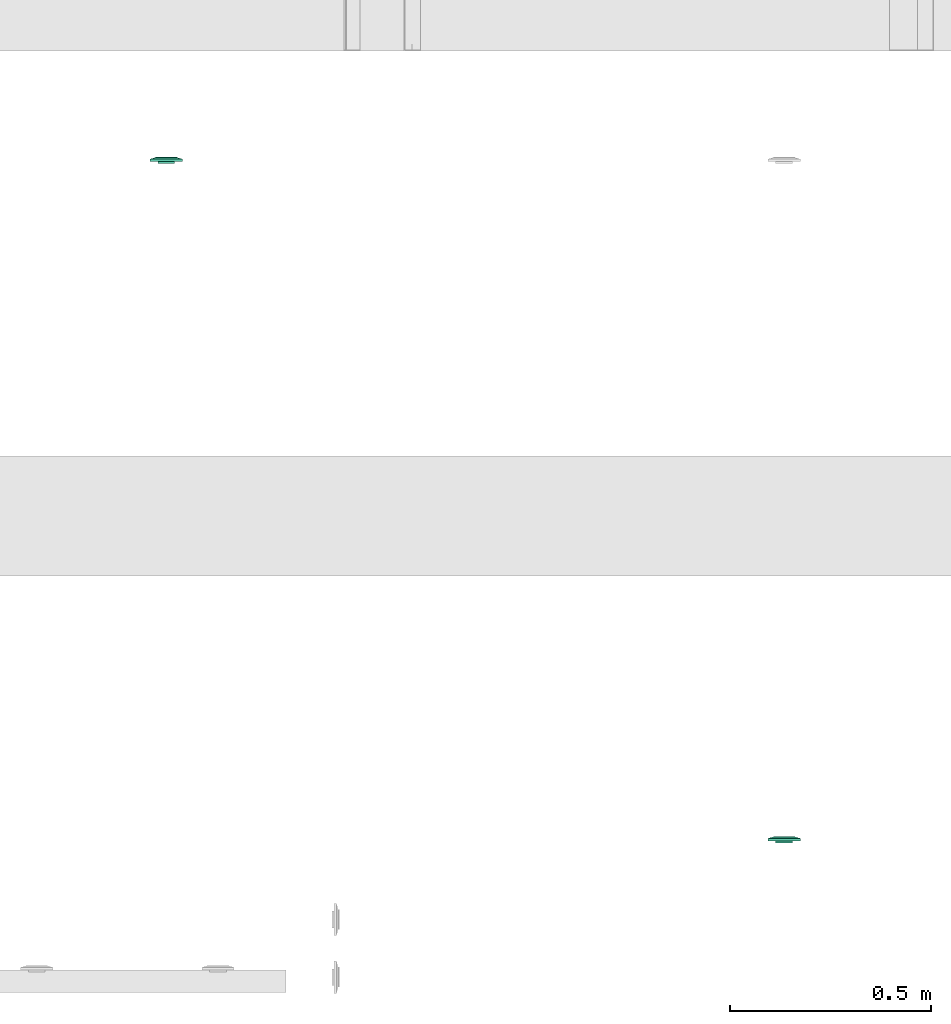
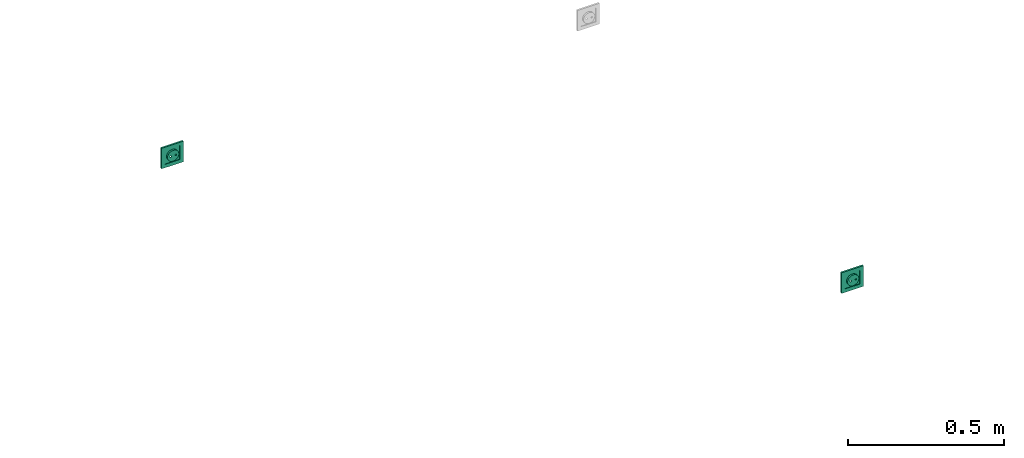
# One storey, part 33 of 166: 2 flow terminals.
"""IFC2X3 building model written with IfcOpenShell, lengths in metres."""

from ifc_helpers import new_model, entity, si_unit, converted_unit, derived_unit, direction, frame, origin, place, context, subcontext, project, spatial, face_set, surface_model, source, transform, mapped, type_object, type_shapes, element, save


model = new_model("IFC2X3")

# Units and contexts
model_context = context("Model", 3, precision=1e-05, world=origin(), true_north=direction((6.12303176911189e-17, 1.0)))
body_context = subcontext(model_context, "Body", "Model", "MODEL_VIEW")
ifc_project = project(units=[si_unit("LENGTHUNIT", "METRE"), si_unit("AREAUNIT", "SQUARE_METRE"), si_unit("VOLUMEUNIT", "CUBIC_METRE"), converted_unit("PLANEANGLEUNIT", "DEGREE", entity("IfcRatioMeasure", 0.0174532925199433), si_unit("PLANEANGLEUNIT", "RADIAN"), dimensions=[0, 0, 0, 0, 0, 0, 0]), si_unit("MASSUNIT", "GRAM", prefix="KILO"), derived_unit("MASSDENSITYUNIT", [(si_unit("MASSUNIT", "GRAM", prefix="KILO"), 1), (si_unit("LENGTHUNIT", "METRE"), -3)]), si_unit("TIMEUNIT", "SECOND"), si_unit("FREQUENCYUNIT", "HERTZ"), si_unit("THERMODYNAMICTEMPERATUREUNIT", "DEGREE_CELSIUS"), derived_unit("THERMALTRANSMITTANCEUNIT", [(si_unit("MASSUNIT", "GRAM", prefix="KILO"), 1), (si_unit("THERMODYNAMICTEMPERATUREUNIT", "KELVIN"), -1), (si_unit("TIMEUNIT", "SECOND"), -3)]), derived_unit("VOLUMETRICFLOWRATEUNIT", [(si_unit("LENGTHUNIT", "METRE"), 3), (si_unit("TIMEUNIT", "SECOND"), -1)]), si_unit("ELECTRICCURRENTUNIT", "AMPERE"), si_unit("ELECTRICVOLTAGEUNIT", "VOLT"), si_unit("POWERUNIT", "WATT"), si_unit("FORCEUNIT", "NEWTON"), si_unit("ILLUMINANCEUNIT", "LUX"), si_unit("LUMINOUSFLUXUNIT", "LUMEN"), si_unit("LUMINOUSINTENSITYUNIT", "CANDELA"), derived_unit("USERDEFINED", [(si_unit("MASSUNIT", "GRAM", prefix="KILO"), -1), (si_unit("LENGTHUNIT", "METRE"), -2), (si_unit("TIMEUNIT", "SECOND"), 3), (si_unit("LUMINOUSFLUXUNIT", "LUMEN"), 1)]), derived_unit("LINEARVELOCITYUNIT", [(si_unit("LENGTHUNIT", "METRE"), 1), (si_unit("TIMEUNIT", "SECOND"), -1)]), si_unit("PRESSUREUNIT", "PASCAL"), derived_unit("USERDEFINED", [(si_unit("LENGTHUNIT", "METRE"), -2), (si_unit("MASSUNIT", "GRAM", prefix="KILO"), 1), (si_unit("TIMEUNIT", "SECOND"), -2)])], contexts=[model_context])

# Site, building, storey
site_placement = place(None, origin())
site = spatial("IfcSite", under=ifc_project, at=site_placement, Name="Default", CompositionType="ELEMENT")
building_placement = place(site_placement, origin())
building = spatial("IfcBuilding", under=site, at=building_placement, CompositionType="ELEMENT")
storey_placement = place(building_placement, frame((0.0, 0.0, 4.27)))
storey = spatial("IfcBuildingStorey", under=building, at=storey_placement, Name="01", CompositionType="ELEMENT", Elevation=4.27)

# Flow terminals
light_fixture_type = type_object("IfcLightFixtureType", Name="Attente", PredefinedType="NOTDEFINED")
shared_shape = source(origin(), body_context, "Body", "SurfaceModel", [
    surface_model("IfcFaceBasedSurfaceModel", [(0.00225000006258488, 0.00949633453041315, 0.0127499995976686), (0.0, 0.00949633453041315, 0.0104999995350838), (0.0, 0.0101656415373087, 0.0115376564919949), (0.0, 0.0101656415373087, 0.0139623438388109), (0.0, 0.00984531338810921, 0.0144589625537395), (0.0, 0.0102778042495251, 0.0121178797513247), (0.0, 0.0102778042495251, 0.0133821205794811), (0.0, 0.010399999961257, 0.0127499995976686), (0.0, 0.00949633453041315, 0.0149999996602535), (-0.00225000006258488, 0.00949633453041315, 0.0127499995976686), (0.0, 0.00984531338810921, 0.0110410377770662), (0.0, 0.00949633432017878, 0.0127499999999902), (-0.0022499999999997, 0.0094963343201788, 0.0127499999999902), (-0.00217333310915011, 0.00949633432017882, 0.0121676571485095), (-0.0019485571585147, 0.00949633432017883, 0.0116249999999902), (-0.00159099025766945, 0.00949633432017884, 0.0111590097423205), (-0.00112499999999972, 0.00949633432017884, 0.0108014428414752), (-0.000582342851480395, 0.00949633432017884, 0.0105766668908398), (0.0, 0.00949633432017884, 0.0104999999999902), (0.000582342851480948, 0.00949633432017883, 0.0105766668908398), (0.00112500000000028, 0.00949633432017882, 0.0108014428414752), (0.00159099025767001, 0.00949633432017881, 0.0111590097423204), (0.00194855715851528, 0.00949633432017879, 0.0116249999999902), (0.0021733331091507, 0.00949633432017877, 0.0121676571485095), (0.0022500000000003, 0.00949633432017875, 0.0127499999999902), (0.00217333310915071, 0.00949633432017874, 0.0133323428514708), (0.0019485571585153, 0.00949633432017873, 0.0138749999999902), (0.00159099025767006, 0.00949633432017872, 0.0143409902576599), (0.00112500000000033, 0.00949633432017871, 0.0146985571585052), (0.000582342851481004, 0.00949633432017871, 0.0149233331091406), (0.0, 0.00949633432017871, 0.0149999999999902), (-0.000582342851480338, 0.00949633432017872, 0.0149233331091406), (-0.00112499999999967, 0.00949633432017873, 0.0146985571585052), (-0.00159099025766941, 0.00949633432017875, 0.0143409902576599), (-0.00194855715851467, 0.00949633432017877, 0.0138749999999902), (-0.00217333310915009, 0.00949633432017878, 0.0133323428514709), (-0.00224999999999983, -0.00360000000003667, 0.0127499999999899), (-0.00217333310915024, -0.00360000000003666, 0.0121676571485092), (-0.00194855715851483, -0.00360000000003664, 0.0116249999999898), (-0.00159099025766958, -0.00360000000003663, 0.0111590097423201), (-0.00112499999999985, -0.00360000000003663, 0.0108014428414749), (-0.000582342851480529, -0.00360000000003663, 0.0105766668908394), (0.0, -0.00360000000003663, 0.0104999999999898), (0.000582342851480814, -0.00360000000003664, 0.0105766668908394), (0.00112500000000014, -0.00360000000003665, 0.0108014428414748), (0.00159099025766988, -0.00360000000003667, 0.0111590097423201), (0.00194855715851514, -0.00360000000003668, 0.0116249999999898), (0.00217333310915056, -0.0036000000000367, 0.0121676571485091), (0.00225000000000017, -0.00360000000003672, 0.0127499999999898), (0.00217333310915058, -0.00360000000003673, 0.0133323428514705), (0.00194855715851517, -0.00360000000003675, 0.0138749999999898), (0.00159099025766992, -0.00360000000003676, 0.0143409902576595), (0.00112500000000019, -0.00360000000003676, 0.0146985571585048), (0.00058234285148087, -0.00360000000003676, 0.0149233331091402), (0.0, -0.00360000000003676, 0.0149999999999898), (-0.000582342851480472, -0.00360000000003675, 0.0149233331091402), (-0.0011249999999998, -0.00360000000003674, 0.0146985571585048), (-0.00159099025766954, -0.00360000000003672, 0.0143409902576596), (-0.0019485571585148, -0.00360000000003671, 0.0138749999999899), (-0.00217333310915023, -0.00360000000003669, 0.0133323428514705), (-0.0270000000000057, 0.0113999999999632, 0.0269999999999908), (0.0269999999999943, 0.0113999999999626, 0.0269999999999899), (0.0269999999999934, 0.0113999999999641, -0.0270000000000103), (-0.0270000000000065, 0.0113999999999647, -0.0270000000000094), (0.0199999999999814, 0.0113999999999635, 0.0), (0.0193185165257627, 0.0113999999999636, -0.00517638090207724), (0.0173205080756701, 0.0113999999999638, -0.0100000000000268), (0.0141421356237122, 0.0113999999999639, -0.0141421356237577), (0.00999999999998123, 0.011399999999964, -0.0173205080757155), (0.00517638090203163, 0.0113999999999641, -0.019318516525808), (0.0, 0.0113999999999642, -0.0200000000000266), (-0.00517638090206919, 0.0113999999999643, -0.0193185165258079), (-0.0100000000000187, 0.0113999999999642, -0.0173205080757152), (-0.0141421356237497, 0.0113999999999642, -0.0141421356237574), (-0.0173205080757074, 0.0113999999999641, -0.0100000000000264), (-0.0193185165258, 0.011399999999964, -0.0051763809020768), (-0.0200000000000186, 0.0113999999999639, 0.0), (-0.0193185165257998, 0.0113999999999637, 0.00517638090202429), (-0.0173205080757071, 0.0113999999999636, 0.00999999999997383), (-0.0141421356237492, 0.0113999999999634, 0.0141421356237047), (-0.0100000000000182, 0.0113999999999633, 0.0173205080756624), (-0.00517638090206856, 0.0113999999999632, 0.0193185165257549), (0.0, 0.0113999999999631, 0.0199999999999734), (0.00517638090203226, 0.0113999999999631, 0.0193185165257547), (0.0099999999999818, 0.0113999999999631, 0.017320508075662), (0.0141421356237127, 0.0113999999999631, 0.0141421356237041), (0.0173205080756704, 0.0113999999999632, 0.00999999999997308), (0.0193185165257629, 0.0113999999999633, 0.00517638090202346), (-0.0270000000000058, 0.00199999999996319, 0.0269999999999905), (-0.0270000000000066, 0.00199999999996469, -0.0270000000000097), (0.0269999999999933, 0.00199999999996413, -0.0270000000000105), (0.0269999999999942, 0.00199999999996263, 0.0269999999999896), (-0.0210000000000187, 0.00199999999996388, 0.0), (-0.0202844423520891, 0.00199999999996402, -0.00543519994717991), (-0.0181865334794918, 0.00199999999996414, -0.0105000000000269), (-0.0148492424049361, 0.00199999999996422, -0.0148492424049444), (-0.0105000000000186, 0.00199999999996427, -0.0181865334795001), (-0.00543519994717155, 0.00199999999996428, -0.0202844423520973), (0.0, 0.00199999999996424, -0.0210000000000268), (0.00543519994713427, 0.00199999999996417, -0.0202844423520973), (0.0104999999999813, 0.00199999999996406, -0.0181865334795), (0.0148492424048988, 0.00199999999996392, -0.0148492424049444), (0.0181865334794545, 0.00199999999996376, -0.0105000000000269), (0.0202844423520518, 0.0019999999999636, -0.00543519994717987), (0.0209999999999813, 0.00199999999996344, 0.0), (0.0202844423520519, 0.0019999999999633, 0.0054351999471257), (0.0181865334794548, 0.00199999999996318, 0.0104999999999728), (0.0148492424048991, 0.00199999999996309, 0.0148492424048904), (0.0104999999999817, 0.00199999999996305, 0.0181865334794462), (0.00543519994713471, 0.00199999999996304, 0.0202844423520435), (0.0, 0.00199999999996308, 0.0209999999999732), (-0.00543519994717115, 0.00199999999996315, 0.0202844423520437), (-0.0105000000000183, 0.00199999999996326, 0.0181865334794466), (-0.0148492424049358, 0.0019999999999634, 0.014849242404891), (-0.0181865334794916, 0.00199999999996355, 0.0104999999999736), (-0.020284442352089, 0.00199999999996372, 0.00543519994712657), (-0.0200000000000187, -0.00360000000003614, 0.0), (-0.0193185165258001, -0.003600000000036, -0.00517638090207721), (-0.0173205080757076, -0.00360000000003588, -0.0100000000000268), (-0.0141421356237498, -0.0036000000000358, -0.0141421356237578), (-0.0100000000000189, -0.00360000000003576, -0.0173205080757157), (-0.00517638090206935, -0.00360000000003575, -0.0193185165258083), (0.0, -0.00360000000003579, -0.020000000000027), (0.00517638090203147, -0.00360000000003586, -0.0193185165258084), (0.00999999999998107, -0.00360000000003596, -0.0173205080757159), (0.0141421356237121, -0.00360000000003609, -0.0141421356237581), (0.0173205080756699, -0.00360000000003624, -0.0100000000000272), (0.0193185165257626, -0.0036000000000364, -0.00517638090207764), (0.0199999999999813, -0.00360000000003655, 0.0), (0.0193185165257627, -0.00360000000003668, 0.00517638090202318), (0.0173205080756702, -0.0036000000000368, 0.00999999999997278), (0.0141421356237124, -0.00360000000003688, 0.0141421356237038), (0.00999999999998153, -0.00360000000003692, 0.0173205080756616), (0.00517638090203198, -0.00360000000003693, 0.0193185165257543), (0.0, -0.0036000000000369, 0.019999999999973), (-0.00517638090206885, -0.00360000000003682, 0.0193185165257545), (-0.0100000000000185, -0.00360000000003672, 0.0173205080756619), (-0.0141421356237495, -0.00360000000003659, 0.0141421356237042), (-0.0173205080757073, -0.00360000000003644, 0.00999999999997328), (-0.0193185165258, -0.00360000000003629, 0.00517638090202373), (0.0123499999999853, -0.00360000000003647, 0.0), (0.0122562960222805, -0.00360000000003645, -0.000711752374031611), (0.0119815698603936, -0.00360000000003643, -0.00137499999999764), (0.0115445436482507, -0.00360000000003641, -0.00194454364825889), (0.0109749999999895, -0.00360000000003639, -0.00238156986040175), (0.0103117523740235, -0.00360000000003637, -0.00265629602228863), (0.00959999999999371, -0.00360000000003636, -0.00274999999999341), (0.00888824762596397, -0.00360000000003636, -0.00265629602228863), (0.00822499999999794, -0.00360000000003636, -0.00238156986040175), (0.00765545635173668, -0.00360000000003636, -0.00194454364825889), (0.00721843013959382, -0.00360000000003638, -0.00137499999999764), (0.00694370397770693, -0.00360000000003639, -0.000711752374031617), (0.00685000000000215, -0.00360000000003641, 0.0), (0.00694370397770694, -0.00360000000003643, 0.000711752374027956), (0.00721843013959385, -0.00360000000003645, 0.00137499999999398), (0.00765545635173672, -0.00360000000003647, 0.00194454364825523), (0.00822499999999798, -0.00360000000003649, 0.00238156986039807), (0.00888824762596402, -0.00360000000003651, 0.00265629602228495), (0.00959999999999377, -0.00360000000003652, 0.0027499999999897), (0.0103117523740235, -0.00360000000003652, 0.00265629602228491), (0.0109749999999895, -0.00360000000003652, 0.00238156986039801), (0.0115445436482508, -0.00360000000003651, 0.00194454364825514), (0.0119815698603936, -0.0036000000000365, 0.00137499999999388), (0.0122562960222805, -0.00360000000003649, 0.000711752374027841), (-0.00685000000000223, -0.00360000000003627, 0.0), (-0.00694370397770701, -0.00360000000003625, -0.000711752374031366), (-0.0072184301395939, -0.00360000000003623, -0.00137499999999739), (-0.00765545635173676, -0.00360000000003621, -0.00194454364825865), (-0.00822499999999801, -0.00360000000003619, -0.0023815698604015), (-0.00888824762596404, -0.00360000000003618, -0.00265629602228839), (-0.00959999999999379, -0.00360000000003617, -0.00274999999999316), (-0.0103117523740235, -0.00360000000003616, -0.00265629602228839), (-0.0109749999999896, -0.00360000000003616, -0.00238156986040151), (-0.0115445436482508, -0.00360000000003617, -0.00194454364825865), (-0.0119815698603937, -0.00360000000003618, -0.0013749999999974), (-0.0122562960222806, -0.0036000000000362, -0.000711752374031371), (-0.0123499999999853, -0.00360000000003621, 0.0), (-0.0122562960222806, -0.00360000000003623, 0.000711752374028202), (-0.0119815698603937, -0.00360000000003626, 0.00137499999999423), (-0.0115445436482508, -0.00360000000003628, 0.00194454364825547), (-0.0109749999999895, -0.00360000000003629, 0.00238156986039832), (-0.0103117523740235, -0.00360000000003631, 0.00265629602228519), (-0.00959999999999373, -0.00360000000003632, 0.00274999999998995), (-0.00888824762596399, -0.00360000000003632, 0.00265629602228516), (-0.00822499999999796, -0.00360000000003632, 0.00238156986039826), (-0.00765545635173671, -0.00360000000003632, 0.00194454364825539), (-0.00721843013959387, -0.0036000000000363, 0.00137499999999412), (-0.00694370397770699, -0.00360000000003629, 0.000711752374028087), (-0.0210000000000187, -0.00460000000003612, 0.0), (-0.0202844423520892, -0.00460000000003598, -0.00543519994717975), (-0.018186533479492, -0.00460000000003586, -0.0105000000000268), (-0.0148492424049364, -0.00460000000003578, -0.0148492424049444), (-0.0105000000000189, -0.00460000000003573, -0.0181865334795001), (-0.00543519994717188, -0.00460000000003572, -0.0202844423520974), (0.0, -0.00460000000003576, -0.021000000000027), (0.00543519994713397, -0.00460000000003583, -0.0202844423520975), (0.0104999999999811, -0.00460000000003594, -0.0181865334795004), (0.0148492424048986, -0.00460000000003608, -0.0148492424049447), (0.0181865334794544, -0.00460000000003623, -0.0105000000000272), (0.0202844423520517, -0.0046000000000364, -0.0054351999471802), (0.0209999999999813, -0.00460000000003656, 0.0), (0.0202844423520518, -0.0046000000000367, 0.00543519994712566), (0.0181865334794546, -0.00460000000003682, 0.0104999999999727), (0.014849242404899, -0.00460000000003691, 0.0148492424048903), (0.0104999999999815, -0.00460000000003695, 0.0181865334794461), (0.0054351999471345, -0.00460000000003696, 0.0202844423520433), (0.0, -0.00460000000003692, 0.020999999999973), (-0.00543519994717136, -0.00460000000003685, 0.0202844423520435), (-0.0105000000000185, -0.00460000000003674, 0.0181865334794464), (-0.014849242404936, -0.0046000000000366, 0.0148492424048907), (-0.0181865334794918, -0.00460000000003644, 0.0104999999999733), (-0.0202844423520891, -0.00460000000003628, 0.00543519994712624), (0.00685000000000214, -0.00460000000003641, 0.0), (0.00694370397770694, -0.00460000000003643, 0.000711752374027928), (0.00721843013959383, -0.00460000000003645, 0.00137499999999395), (0.0076554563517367, -0.00460000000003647, 0.0019445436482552), (0.00822499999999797, -0.00460000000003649, 0.00238156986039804), (0.00888824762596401, -0.0046000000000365, 0.00265629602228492), (0.00959999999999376, -0.00460000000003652, 0.00274999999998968), (0.0103117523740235, -0.00460000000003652, 0.00265629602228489), (0.0109749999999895, -0.00460000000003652, 0.00238156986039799), (0.0115445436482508, -0.00460000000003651, 0.00194454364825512), (0.0119815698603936, -0.0046000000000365, 0.00137499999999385), (0.0122562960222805, -0.00460000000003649, 0.000711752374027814), (0.0123499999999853, -0.00460000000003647, 0.0), (0.0122562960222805, -0.00460000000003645, -0.00071175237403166), (0.0119815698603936, -0.00460000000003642, -0.00137499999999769), (0.0115445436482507, -0.0046000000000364, -0.00194454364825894), (0.0109749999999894, -0.00460000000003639, -0.00238156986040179), (0.0103117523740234, -0.00460000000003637, -0.00265629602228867), (0.00959999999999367, -0.00460000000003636, -0.00274999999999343), (0.00888824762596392, -0.00460000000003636, -0.00265629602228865), (0.00822499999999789, -0.00460000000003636, -0.00238156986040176), (0.00765545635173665, -0.00460000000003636, -0.00194454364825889), (0.00721843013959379, -0.00460000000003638, -0.00137499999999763), (0.00694370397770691, -0.00460000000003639, -0.0007117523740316), (-0.0123499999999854, -0.00460000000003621, 0.0), (-0.0122562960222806, -0.00460000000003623, 0.000711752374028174), (-0.0119815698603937, -0.00460000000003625, 0.0013749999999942), (-0.0115445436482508, -0.00460000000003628, 0.00194454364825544), (-0.0109749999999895, -0.00460000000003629, 0.00238156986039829), (-0.0103117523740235, -0.00460000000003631, 0.00265629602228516), (-0.00959999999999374, -0.00460000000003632, 0.00274999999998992), (-0.008888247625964, -0.00460000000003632, 0.00265629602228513), (-0.00822499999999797, -0.00460000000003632, 0.00238156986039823), (-0.00765545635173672, -0.00460000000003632, 0.00194454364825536), (-0.00721843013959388, -0.0046000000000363, 0.0013749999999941), (-0.006943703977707, -0.00460000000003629, 0.000711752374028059), (-0.00685000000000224, -0.00460000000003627, 0.0), (-0.00694370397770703, -0.00460000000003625, -0.000711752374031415), (-0.00721843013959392, -0.00460000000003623, -0.00137499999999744), (-0.00765545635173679, -0.00460000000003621, -0.00194454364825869), (-0.00822499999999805, -0.00460000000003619, -0.00238156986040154), (-0.00888824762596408, -0.00460000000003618, -0.00265629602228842), (-0.00959999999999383, -0.00460000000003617, -0.00274999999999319), (-0.0103117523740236, -0.00460000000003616, -0.00265629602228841), (-0.0109749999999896, -0.00460000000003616, -0.00238156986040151), (-0.0115445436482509, -0.00460000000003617, -0.00194454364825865), (-0.0119815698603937, -0.00460000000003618, -0.00137499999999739), (-0.0122562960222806, -0.00460000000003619, -0.000711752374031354), (-0.0403499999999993, 0.00659999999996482, 0.0403499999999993), (-0.0403500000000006, 0.00659999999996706, -0.0403500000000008), (0.0403499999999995, 0.00659999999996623, -0.0403500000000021), (0.0403500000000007, 0.00659999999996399, 0.040349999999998), (-0.0269999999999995, 0.00659999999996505, 0.026999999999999), (0.0270000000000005, 0.0065999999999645, 0.0269999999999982), (0.0269999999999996, 0.006599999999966, -0.0270000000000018), (-0.0270000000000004, 0.00659999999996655, -0.027000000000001), (-0.0269999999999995, 0.0103999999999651, 0.0269999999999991), (0.0270000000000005, 0.0103999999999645, 0.0269999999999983), (0.0269999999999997, 0.010399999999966, -0.0270000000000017), (-0.0270000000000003, 0.0103999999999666, -0.0270000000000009), (-0.0403499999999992, 0.00659999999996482, 0.0403499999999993), (-0.0403500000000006, 0.00659999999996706, -0.0403500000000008), (0.0403499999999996, 0.00659999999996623, -0.0403500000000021), (0.0403500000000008, 0.00659999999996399, 0.040349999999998), (0.0270000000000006, 0.0065999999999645, 0.0269999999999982), (0.0269999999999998, 0.006599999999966, -0.0270000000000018), (-0.0270000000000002, 0.00659999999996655, -0.027000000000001), (-0.0269999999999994, 0.00659999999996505, 0.026999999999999), (-0.0403499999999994, 0.0, 0.0403499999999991), (-0.0403500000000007, 0.0, -0.040350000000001), (0.0403499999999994, 0.0, -0.0403500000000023), (0.0403500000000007, 0.0, 0.0403499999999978), (-0.0269999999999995, 0.0, 0.0269999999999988), (0.0270000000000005, 0.0, 0.026999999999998), (0.0269999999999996, 0.0, -0.027000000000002), (-0.0270000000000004, 0.0, -0.0270000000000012)], [face_set([[[0, 1, 2]], [[3, 4, 2, 5]], [[6, 3, 5, 7]], [[2, 4, 0]], [[4, 8, 0]], [[3, 9, 8]], [[1, 9, 10]], [[2, 3, 6, 7]], [[3, 10, 9]], [[2, 10, 3]], [[11, 1, 0, 8]], [[11, 8, 9, 1]]]), face_set([[[12, 13, 14, 15, 16, 17, 18, 19, 20, 21, 22, 23, 24, 25, 26, 27, 28, 29, 30, 31, 32, 33, 34, 35]], [[36, 37, 38, 39, 40, 41, 42, 43, 44, 45, 46, 47, 48, 49, 50, 51, 52, 53, 54, 55, 56, 57, 58, 59]], [[48, 47, 23, 24]], [[47, 46, 22, 23]], [[45, 44, 20, 21]], [[46, 45, 21, 22]], [[44, 43, 19, 20]], [[18, 19, 43, 42]], [[42, 41, 17, 18]], [[41, 40, 16, 17]], [[39, 38, 14, 15]], [[40, 39, 15, 16]], [[38, 37, 13, 14]], [[12, 13, 37, 36]], [[36, 59, 35, 12]], [[59, 58, 34, 35]], [[57, 56, 32, 33]], [[58, 57, 33, 34]], [[56, 55, 31, 32]], [[30, 31, 55, 54]], [[54, 53, 29, 30]], [[53, 52, 28, 29]], [[51, 50, 26, 27]], [[52, 51, 27, 28]], [[50, 49, 25, 26]], [[24, 25, 49, 48]]]), face_set([[[60, 61, 62, 63], [64, 65, 66, 67, 68, 69, 70, 71, 72, 73, 74, 75, 76, 77, 78, 79, 80, 81, 82, 83, 84, 85, 86, 87]], [[88, 89, 90, 91], [92, 93, 94, 95, 96, 97, 98, 99, 100, 101, 102, 103, 104, 105, 106, 107, 108, 109, 110, 111, 112, 113, 114, 115]], [[61, 60, 88, 91]], [[62, 61, 91, 90]], [[63, 62, 90, 89]], [[60, 63, 89, 88]], [[116, 117, 118, 119, 120, 121, 122, 123, 124, 125, 126, 127, 128, 129, 130, 131, 132, 133, 134, 135, 136, 137, 138, 139], [140, 141, 142, 143, 144, 145, 146, 147, 148, 149, 150, 151, 152, 153, 154, 155, 156, 157, 158, 159, 160, 161, 162, 163], [164, 165, 166, 167, 168, 169, 170, 171, 172, 173, 174, 175, 176, 177, 178, 179, 180, 181, 182, 183, 184, 185, 186, 187]], [[64, 128, 127, 65]], [[65, 127, 126, 66]], [[67, 125, 124, 68]], [[66, 126, 125, 67]], [[68, 124, 123, 69]], [[122, 70, 69, 123]], [[70, 122, 121, 71]], [[71, 121, 120, 72]], [[73, 119, 118, 74]], [[72, 120, 119, 73]], [[74, 118, 117, 75]], [[116, 76, 75, 117]], [[76, 116, 139, 77]], [[77, 139, 138, 78]], [[79, 137, 136, 80]], [[78, 138, 137, 79]], [[80, 136, 135, 81]], [[134, 82, 81, 135]], [[82, 134, 133, 83]], [[83, 133, 132, 84]], [[84, 132, 131, 85]], [[85, 131, 130, 86]], [[130, 129, 87, 86]], [[64, 87, 129, 128]], [[188, 189, 190, 191, 192, 193, 194, 195, 196, 197, 198, 199, 200, 201, 202, 203, 204, 205, 206, 207, 208, 209, 210, 211], [212, 213, 214, 215, 216, 217, 218, 219, 220, 221, 222, 223, 224, 225, 226, 227, 228, 229, 230, 231, 232, 233, 234, 235], [236, 237, 238, 239, 240, 241, 242, 243, 244, 245, 246, 247, 248, 249, 250, 251, 252, 253, 254, 255, 256, 257, 258, 259]], [[200, 199, 103, 104]], [[199, 198, 102, 103]], [[197, 196, 100, 101]], [[198, 197, 101, 102]], [[196, 195, 99, 100]], [[98, 99, 195, 194]], [[194, 193, 97, 98]], [[193, 192, 96, 97]], [[191, 190, 94, 95]], [[192, 191, 95, 96]], [[190, 189, 93, 94]], [[92, 93, 189, 188]], [[188, 211, 115, 92]], [[211, 210, 114, 115]], [[209, 208, 112, 113]], [[210, 209, 113, 114]], [[208, 207, 111, 112]], [[110, 111, 207, 206]], [[206, 205, 109, 110]], [[205, 204, 108, 109]], [[203, 202, 106, 107]], [[204, 203, 107, 108]], [[202, 201, 105, 106]], [[104, 105, 201, 200]], [[141, 225, 226, 142]], [[140, 224, 225, 141]], [[144, 228, 229, 145]], [[143, 227, 228, 144]], [[142, 226, 227, 143]], [[230, 146, 145, 229]], [[149, 233, 232, 148]], [[148, 232, 231, 147]], [[152, 212, 235, 151]], [[151, 235, 234, 150]], [[150, 234, 233, 149]], [[146, 230, 231, 147]], [[154, 214, 213, 153]], [[153, 213, 212, 152]], [[157, 217, 216, 156]], [[156, 216, 215, 155]], [[155, 215, 214, 154]], [[218, 158, 157, 217]], [[160, 220, 221, 161]], [[159, 219, 220, 160]], [[163, 223, 224, 140]], [[162, 222, 223, 163]], [[161, 221, 222, 162]], [[158, 218, 219, 159]], [[166, 250, 249, 165]], [[165, 249, 248, 164]], [[169, 253, 252, 168]], [[168, 252, 251, 167]], [[167, 251, 250, 166]], [[254, 170, 169, 253]], [[172, 256, 257, 173]], [[171, 255, 256, 172]], [[175, 259, 236, 176]], [[174, 258, 259, 175]], [[173, 257, 258, 174]], [[170, 254, 255, 171]], [[177, 237, 238, 178]], [[176, 236, 237, 177]], [[180, 240, 241, 181]], [[179, 239, 240, 180]], [[178, 238, 239, 179]], [[242, 182, 181, 241]], [[185, 245, 244, 184]], [[184, 244, 243, 183]], [[164, 248, 247, 187]], [[187, 247, 246, 186]], [[186, 246, 245, 185]], [[182, 242, 243, 183]]]), face_set([[[260, 261, 262, 263], [264, 265, 266, 267]], [[260, 268, 269, 263]], [[263, 269, 270, 262]], [[262, 270, 271, 261]], [[261, 271, 268, 260]], [[264, 265, 269, 268]], [[265, 266, 270, 269]], [[266, 267, 271, 270]], [[268, 271, 267, 264]]]), face_set([[[272, 273, 274, 275], [276, 277, 278, 279]], [[280, 281, 282, 283], [284, 285, 286, 287]], [[275, 272, 280, 283]], [[274, 275, 283, 282]], [[273, 274, 282, 281]], [[272, 273, 281, 280]], [[284, 285, 276, 279]], [[285, 286, 277, 276]], [[286, 287, 278, 277]], [[279, 278, 287, 284]]])]),
])
type_shapes(light_fixture_type, [shared_shape])
for number, where, name in (
    (1, (30.072145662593, -188.513469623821, 0.0), "INT_Attente électrique:Attente"),
    (2, (31.612145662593, -190.206469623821, 0.0), "INT_Attente électrique:Attente"),
):
    element("IfcFlowTerminal", number, at=place(storey_placement, frame(where)), inside=storey, type_object=light_fixture_type, Name=name, ObjectType="INT_Attente électrique:Attente", context=body_context, shape_type="MappedRepresentation", body=[
        mapped(shared_shape, transform((0.0, 0.0, 0.0), scale=1.0)),
    ])

save(model, "model.ifc")
